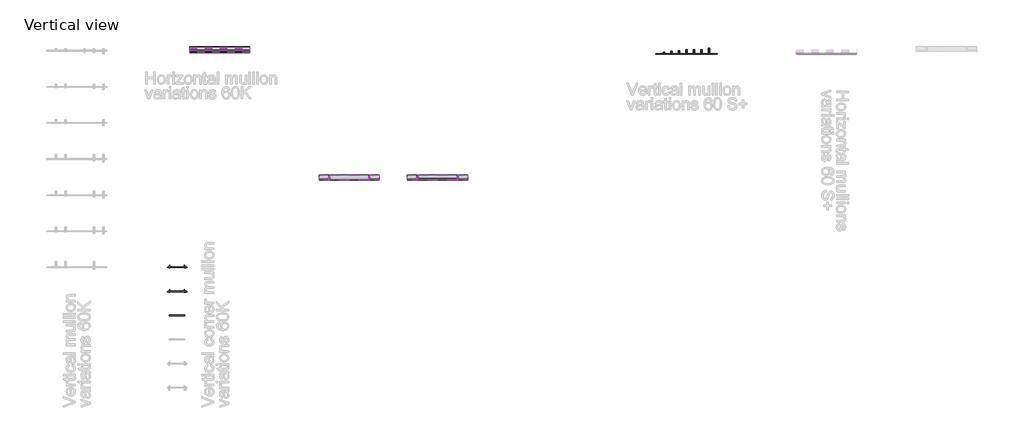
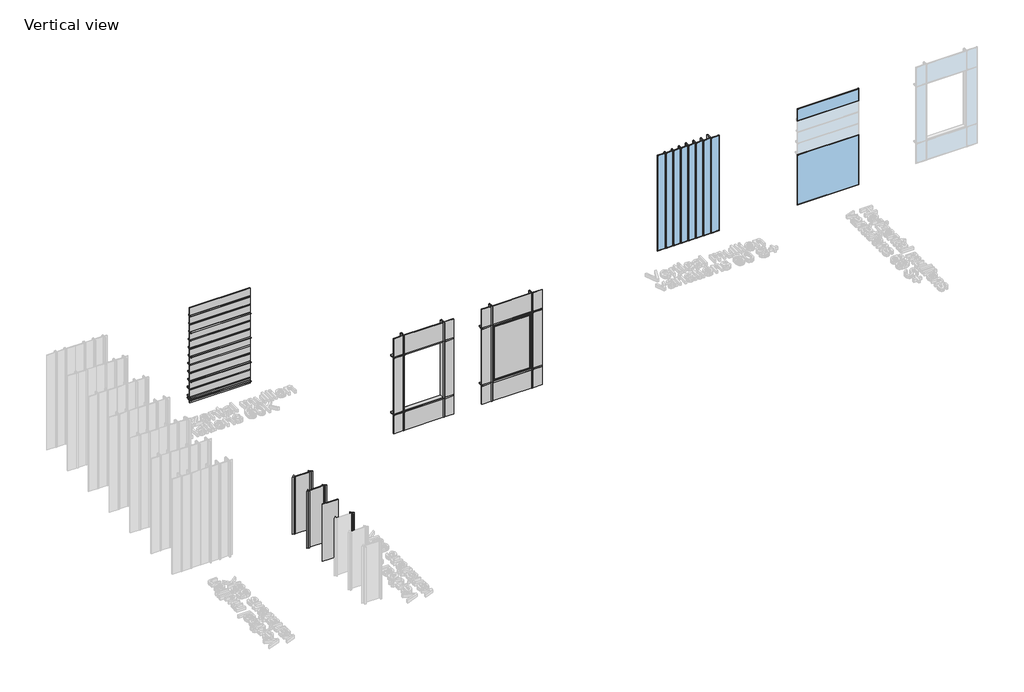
# One storey, part 2 of 8: 48 members, 33 plates, 10 windows.
"""IFC4 building model written with IfcOpenShell, lengths in millimetres."""

from ifc_helpers import new_model, si_unit, origin, place, context, project, spatial, transform, mapped, element, save
from components import rectangular_mullion_91a4d03f, rectangular_mullion_1fb9d1cf, rectangular_mullion_e379f3d9, rectangular_mullion_30acf88c, rectangular_mullion_fmo60_114_fm60_11_d209c6d5, rectangular_mullion_fmo60_114_fm60_80_10442b32, rectangular_mullion_fmo60_118_s_0fe06a43, rectangular_mullion_fmo60_158_s_52347238, rectangular_mullion_fmo60_198_fm60_072_dd037897, rectangular_mullion_fmo60_198_fm60_11_775ce3b2, rectangular_mullion_fmo60_198_fm60_80_f14fbcc1, rectangular_mullion_fmo60_200_s_0897aa4b, rectangular_mullion_fmo60_200_fm60_11_a42c40b5, rectangular_mullion_fmo60_200_fm60_11_e7f553fe, rectangular_mullion_fmo60_200_fm60_17_2a329e26, rectangular_mullion_fmo60_200_fm60_17_df5e8c79, rectangular_mullion_fmo60_202s_df9089a6, rectangular_mullion_fmo60_270_s_035aa8a6, rectangular_mullion_fmo60_88_s_e3798255, rectangular_mullion_fmv60_114_fm60_072_02b97602, rectangular_mullion_fmv60_156_fm60_072_3197a984, rectangular_mullion_fmv60_156_fm60_11_ceda7d93, rectangular_mullion_fmv60_156_fm60_80_34412146, rectangular_mullion_fmv60_198_fm60_11_caea0c3b, rectangular_mullion_fmv60_198_fm60_11_619c33c3, rectangular_mullion_fmv60_198_fm60_11_c9d1c292, rectangular_mullion_fmv60_198_fm60_11_2_b09c84f9, rectangular_mullion_fmv60_198_fm60_11_2_ca5d6e68, rectangular_mullion_fmv60_88_fm60_072_44b3a92c, rectangular_mullion_fmv60_88_fm60_11_a70bedf8, rectangular_mullion_fmv60_88_fm60_80_51c820f4, system_panel_glazed_1e6cb2f1, system_panel_glazed_8a542666, system_panel_glazed_3cf5a666, system_panel_glazed_1a46cd8e, system_panel_glazed_b2c5e9e3, system_panel_glazed_255130bc, system_panel_glazed_8ef16246, system_panel_glazed_57e81d33, system_panel_glazed_b8137b65, system_panel_glazed_9a2b330e, system_panel_glazed_e2c861a8, windows_series_t65_windows_series_t65_0c6ae27d, fixed_panel_02_fixed_panel_rubber_02_f5d591b8, fixed_panel_02_fixed_panel_rubber_02_600722cc, fixed_panel_02_fixed_panel_rubber_02_349c402d, fixed_panel_02_fixed_panel_rubber_02_223eeaf6, fixed_panel_02_fixed_panel_rubber_02_f751245b, fixed_panel_02_fixed_panel_rubber_02_9ab53f43, fixed_panel_02_fixed_panel_rubber_02_17601ea6, fixed_panel_02_fixed_panel_rubber_02_53cac8bb, fixed_panel_02_fixed_panel_rubber_02_3c9d875f

model = new_model("IFC4")

# Units and contexts
model_context = context("Model", 3, world=origin())
ifc_project = project(units=[si_unit("LENGTHUNIT", "METRE", prefix="MILLI")], contexts=[model_context])

# Site, building, storey
site = spatial("IfcSite", under=ifc_project)
building = spatial("IfcBuilding", under=site)
storey = spatial("IfcBuildingStorey", under=building, Name="Vertical view", Elevation=0.0)

# Members
placement = place(None, origin())
rectangular_mullion_shape = rectangular_mullion_91a4d03f(model_context)
element("IfcMember", 1, ObjectType="Rectangular Mullion : FMO60-200S S+", at=placement, inside=storey, context=model_context, shape_type="MappedRepresentation", body=[
    mapped(rectangular_mullion_shape, transform((28878.7472957, -3962.2769055, 0.0), x_axis=(1.0, 0.0, 0.0), y_axis=(0.0, -1.0, 0.0), z_axis=(0.0, 0.0, -1.0))),
])
rectangular_mullion_2_shape = rectangular_mullion_1fb9d1cf(model_context)
element("IfcMember", 2, ObjectType="Rectangular Mullion : FMO053...FM60-11_L", at=placement, inside=storey, context=model_context, shape_type="MappedRepresentation", body=[
    mapped(rectangular_mullion_2_shape, transform((2631.4544688, -14613.2711063, 3000.0), x_axis=(-1.0, 0.0, 0.0), y_axis=(0.0, -1.0, 0.0), z_axis=(0.0, 0.0, 1.0))),
])
element("IfcMember", 3, ObjectType="Rectangular Mullion : FMO053...FM60-11_R", at=placement, inside=storey, context=model_context, shape_type="MappedRepresentation", body=[
    mapped(rectangular_mullion_2_shape, transform((3631.4544688, -14613.2711063, 0.0), x_axis=(1.0, 0.0, 0.0), y_axis=(0.0, -1.0, 0.0), z_axis=(0.0, 0.0, -1.0))),
])
rectangular_mullion_3_shape = rectangular_mullion_e379f3d9(model_context)
element("IfcMember", 4, ObjectType="Rectangular Mullion : FMO053...FM60-17_L", at=placement, inside=storey, context=model_context, shape_type="MappedRepresentation", body=[
    mapped(rectangular_mullion_3_shape, transform((2631.4544688, -15813.2711063, 3000.0), x_axis=(-1.0, 0.0, 0.0), y_axis=(0.0, -1.0, 0.0), z_axis=(0.0, 0.0, 1.0))),
])
element("IfcMember", 5, ObjectType="Rectangular Mullion : FMO053...FM60-17_R", at=placement, inside=storey, context=model_context, shape_type="MappedRepresentation", body=[
    mapped(rectangular_mullion_3_shape, transform((3631.4544688, -15813.2711063, 0.0), x_axis=(1.0, 0.0, 0.0), y_axis=(0.0, -1.0, 0.0), z_axis=(0.0, 0.0, -1.0))),
])
rectangular_mullion_4_shape = rectangular_mullion_30acf88c(model_context)
element("IfcMember", 6, ObjectType="Rectangular Mullion : FMO053...FM60-80_R", at=placement, inside=storey, context=model_context, shape_type="MappedRepresentation", body=[
    mapped(rectangular_mullion_4_shape, transform((3631.4544688, -18208.704744, 0.0), x_axis=(1.0, 0.0, 0.0), y_axis=(0.0, -1.0, 0.0), z_axis=(0.0, 0.0, -1.0))),
])
rectangular_mullion_fmo60_114_fm60_11_shape = rectangular_mullion_fmo60_114_fm60_11_d209c6d5(model_context)
element("IfcMember", 7, ObjectType="Rectangular Mullion : FMO60-114...FM60-11", at=placement, inside=storey, context=model_context, shape_type="MappedRepresentation", body=[
    mapped(rectangular_mullion_fmo60_114_fm60_11_shape, transform((6754.7967463, -3813.2711063, 2855.8002804), x_axis=(0.0, 0.0, 1.0), y_axis=(0.0, -1.0, 0.0), z_axis=(1.0, 0.0, 0.0))),
])
rectangular_mullion_fmo60_114_fm60_80_shape = rectangular_mullion_fmo60_114_fm60_80_10442b32(model_context)
element("IfcMember", 8, ObjectType="Rectangular Mullion : FMO60-114...FM60-80", at=placement, inside=storey, context=model_context, shape_type="MappedRepresentation", body=[
    mapped(rectangular_mullion_fmo60_114_fm60_80_shape, transform((6754.7967463, -3813.2711063, 2426.9603365), x_axis=(0.0, 0.0, 1.0), y_axis=(0.0, -1.0, 0.0), z_axis=(1.0, 0.0, 0.0))),
])
rectangular_mullion_fmo60_118_s_shape = rectangular_mullion_fmo60_118_s_0fe06a43(model_context)
element("IfcMember", 9, ObjectType="Rectangular Mullion : FMO60-118 S+", at=placement, inside=storey, context=model_context, shape_type="MappedRepresentation", body=[
    mapped(rectangular_mullion_fmo60_118_s_shape, transform((27753.7472957, -3962.2769055, 0.0), x_axis=(1.0, 0.0, 0.0), y_axis=(0.0, -1.0, 0.0), z_axis=(0.0, 0.0, -1.0))),
])
rectangular_mullion_fmo60_158_s_shape = rectangular_mullion_fmo60_158_s_52347238(model_context)
element("IfcMember", 10, ObjectType="Rectangular Mullion : FMO60-158 S+", at=placement, inside=storey, context=model_context, shape_type="MappedRepresentation", body=[
    mapped(rectangular_mullion_fmo60_158_s_shape, transform((28128.7472957, -3962.2769055, 0.0), x_axis=(1.0, 0.0, 0.0), y_axis=(0.0, -1.0, 0.0), z_axis=(0.0, 0.0, -1.0))),
])
rectangular_mullion_fmo60_198_fm60_072_shape = rectangular_mullion_fmo60_198_fm60_072_dd037897(model_context)
element("IfcMember", 11, ObjectType="Rectangular Mullion : FMO60-198...FM60-072", at=placement, inside=storey, context=model_context, shape_type="MappedRepresentation", body=[
    mapped(rectangular_mullion_fmo60_198_fm60_072_shape, transform((6754.7967463, -3813.2711063, 282.7606169), x_axis=(0.0, 0.0, 1.0), y_axis=(0.0, -1.0, 0.0), z_axis=(1.0, 0.0, 0.0))),
])
rectangular_mullion_fmo60_198_fm60_11_shape = rectangular_mullion_fmo60_198_fm60_11_775ce3b2(model_context)
element("IfcMember", 12, ObjectType="Rectangular Mullion : FMO60-198...FM60-11", at=placement, inside=storey, context=model_context, shape_type="MappedRepresentation", body=[
    mapped(rectangular_mullion_fmo60_198_fm60_11_shape, transform((6754.7967463, -3813.2711063, 711.6005608), x_axis=(0.0, 0.0, 1.0), y_axis=(0.0, -1.0, 0.0), z_axis=(1.0, 0.0, 0.0))),
])
rectangular_mullion_fmo60_198_fm60_80_shape = rectangular_mullion_fmo60_198_fm60_80_f14fbcc1(model_context)
element("IfcMember", 13, ObjectType="Rectangular Mullion : FMO60-198...FM60-80", at=placement, inside=storey, context=model_context, shape_type="MappedRepresentation", body=[
    mapped(rectangular_mullion_fmo60_198_fm60_80_shape, transform((6754.7967463, -3813.2711063, 141.3803085), x_axis=(0.0, 0.0, 1.0), y_axis=(0.0, -1.0, 0.0), z_axis=(1.0, 0.0, 0.0))),
])
rectangular_mullion_fmo60_200_s_shape = rectangular_mullion_fmo60_200_s_0897aa4b(model_context)
element("IfcMember", 14, ObjectType="Rectangular Mullion : FMO60-200 S+", at=placement, inside=storey, context=model_context, shape_type="MappedRepresentation", body=[
    mapped(rectangular_mullion_fmo60_200_s_shape, transform((28503.7472957, -3962.2769055, 0.0), x_axis=(1.0, 0.0, 0.0), y_axis=(0.0, -1.0, 0.0), z_axis=(0.0, 0.0, -1.0))),
])
rectangular_mullion_fmo60_200_fm60_11_shape = rectangular_mullion_fmo60_200_fm60_11_a42c40b5(model_context)
element("IfcMember", 15, ObjectType="Rectangular Mullion : FMO60-200...FM60-11", at=placement, inside=storey, context=model_context, shape_type="MappedRepresentation", body=[
    mapped(rectangular_mullion_fmo60_200_fm60_11_shape, transform((15106.346732, -10221.1203741, 1000.0), x_axis=(1.0, 0.0, 0.0), y_axis=(0.0, -1.0, 0.0), z_axis=(0.0, 0.0, -1.0))),
])
element("IfcMember", 16, ObjectType="Rectangular Mullion : FMO60-200...FM60-11", at=placement, inside=storey, context=model_context, shape_type="MappedRepresentation", body=[
    mapped(rectangular_mullion_fmo60_200_fm60_11_shape, transform((17106.346732, -10221.1203741, 1000.0), x_axis=(1.0, 0.0, 0.0), y_axis=(0.0, -1.0, 0.0), z_axis=(0.0, 0.0, -1.0))),
])
rectangular_mullion_fmo60_200_fm60_11_2_shape = rectangular_mullion_fmo60_200_fm60_11_e7f553fe(model_context)
element("IfcMember", 17, ObjectType="Rectangular Mullion : FMO60-200...FM60-11", at=placement, inside=storey, context=model_context, shape_type="MappedRepresentation", body=[
    mapped(rectangular_mullion_fmo60_200_fm60_11_2_shape, transform((15106.346732, -10221.1203741, 4000.0), x_axis=(1.0, 0.0, 0.0), y_axis=(0.0, -1.0, 0.0), z_axis=(0.0, 0.0, -1.0))),
])
element("IfcMember", 18, ObjectType="Rectangular Mullion : FMO60-200...FM60-11", at=placement, inside=storey, context=model_context, shape_type="MappedRepresentation", body=[
    mapped(rectangular_mullion_fmo60_200_fm60_11_2_shape, transform((17106.346732, -10221.1203741, 4000.0), x_axis=(1.0, 0.0, 0.0), y_axis=(0.0, -1.0, 0.0), z_axis=(0.0, 0.0, -1.0))),
])
element("IfcMember", 19, ObjectType="Rectangular Mullion : FMO60-200...FM60-11", at=placement, inside=storey, context=model_context, shape_type="MappedRepresentation", body=[
    mapped(rectangular_mullion_fmo60_200_fm60_11_2_shape, transform((15106.346732, -10221.1203741, 0.0), x_axis=(1.0, 0.0, 0.0), y_axis=(0.0, -1.0, 0.0), z_axis=(0.0, 0.0, -1.0))),
])
element("IfcMember", 20, ObjectType="Rectangular Mullion : FMO60-200...FM60-11", at=placement, inside=storey, context=model_context, shape_type="MappedRepresentation", body=[
    mapped(rectangular_mullion_fmo60_200_fm60_11_2_shape, transform((17106.346732, -10221.1203741, 0.0), x_axis=(1.0, 0.0, 0.0), y_axis=(0.0, -1.0, 0.0), z_axis=(0.0, 0.0, -1.0))),
])
rectangular_mullion_fmo60_200_fm60_17_shape = rectangular_mullion_fmo60_200_fm60_17_2a329e26(model_context)
element("IfcMember", 21, ObjectType="Rectangular Mullion : FMO60-200...FM60-17", at=placement, inside=storey, context=model_context, shape_type="MappedRepresentation", body=[
    mapped(rectangular_mullion_fmo60_200_fm60_17_shape, transform((10706.346732, -10221.1203741, 1000.0), x_axis=(1.0, 0.0, 0.0), y_axis=(0.0, -1.0, 0.0), z_axis=(0.0, 0.0, -1.0))),
])
element("IfcMember", 22, ObjectType="Rectangular Mullion : FMO60-200...FM60-17", at=placement, inside=storey, context=model_context, shape_type="MappedRepresentation", body=[
    mapped(rectangular_mullion_fmo60_200_fm60_17_shape, transform((12706.346732, -10221.1203741, 1000.0), x_axis=(1.0, 0.0, 0.0), y_axis=(0.0, -1.0, 0.0), z_axis=(0.0, 0.0, -1.0))),
])
rectangular_mullion_fmo60_200_fm60_17_2_shape = rectangular_mullion_fmo60_200_fm60_17_df5e8c79(model_context)
element("IfcMember", 23, ObjectType="Rectangular Mullion : FMO60-200...FM60-17", at=placement, inside=storey, context=model_context, shape_type="MappedRepresentation", body=[
    mapped(rectangular_mullion_fmo60_200_fm60_17_2_shape, transform((10706.346732, -10221.1203741, 4000.0), x_axis=(1.0, 0.0, 0.0), y_axis=(0.0, -1.0, 0.0), z_axis=(0.0, 0.0, -1.0))),
])
element("IfcMember", 24, ObjectType="Rectangular Mullion : FMO60-200...FM60-17", at=placement, inside=storey, context=model_context, shape_type="MappedRepresentation", body=[
    mapped(rectangular_mullion_fmo60_200_fm60_17_2_shape, transform((12706.346732, -10221.1203741, 4000.0), x_axis=(1.0, 0.0, 0.0), y_axis=(0.0, -1.0, 0.0), z_axis=(0.0, 0.0, -1.0))),
])
element("IfcMember", 25, ObjectType="Rectangular Mullion : FMO60-200...FM60-17", at=placement, inside=storey, context=model_context, shape_type="MappedRepresentation", body=[
    mapped(rectangular_mullion_fmo60_200_fm60_17_2_shape, transform((10706.346732, -10221.1203741, 0.0), x_axis=(1.0, 0.0, 0.0), y_axis=(0.0, -1.0, 0.0), z_axis=(0.0, 0.0, -1.0))),
])
element("IfcMember", 26, ObjectType="Rectangular Mullion : FMO60-200...FM60-17", at=placement, inside=storey, context=model_context, shape_type="MappedRepresentation", body=[
    mapped(rectangular_mullion_fmo60_200_fm60_17_2_shape, transform((12706.346732, -10221.1203741, 0.0), x_axis=(1.0, 0.0, 0.0), y_axis=(0.0, -1.0, 0.0), z_axis=(0.0, 0.0, -1.0))),
])
rectangular_mullion_fmo60_202s_shape = rectangular_mullion_fmo60_202s_df9089a6(model_context)
element("IfcMember", 27, ObjectType="Rectangular Mullion : FMO60-202S+", at=placement, inside=storey, context=model_context, shape_type="MappedRepresentation", body=[
    mapped(rectangular_mullion_fmo60_202s_shape, transform((29253.7472957, -3962.2769055, 0.0), x_axis=(1.0, 0.0, 0.0), y_axis=(0.0, -1.0, 0.0), z_axis=(0.0, 0.0, -1.0))),
])
rectangular_mullion_fmo60_270_s_shape = rectangular_mullion_fmo60_270_s_035aa8a6(model_context)
element("IfcMember", 28, ObjectType="Rectangular Mullion : FMO60-270 S+", at=placement, inside=storey, context=model_context, shape_type="MappedRepresentation", body=[
    mapped(rectangular_mullion_fmo60_270_s_shape, transform((29628.7472957, -3962.2769055, 0.0), x_axis=(1.0, 0.0, 0.0), y_axis=(0.0, -1.0, 0.0), z_axis=(0.0, 0.0, -1.0))),
])
rectangular_mullion_fmo60_88_s_shape = rectangular_mullion_fmo60_88_s_e3798255(model_context)
element("IfcMember", 29, ObjectType="Rectangular Mullion : FMO60-88 S+", at=placement, inside=storey, context=model_context, shape_type="MappedRepresentation", body=[
    mapped(rectangular_mullion_fmo60_88_s_shape, transform((27378.7472957, -3962.2769055, 0.0), x_axis=(1.0, 0.0, 0.0), y_axis=(0.0, -1.0, 0.0), z_axis=(0.0, 0.0, -1.0))),
])
rectangular_mullion_fmv60_114_fm60_072_shape = rectangular_mullion_fmv60_114_fm60_072_02b97602(model_context)
element("IfcMember", 30, ObjectType="Rectangular Mullion : FMV60-114...FM60-072", at=placement, inside=storey, context=model_context, shape_type="MappedRepresentation", body=[
    mapped(rectangular_mullion_fmv60_114_fm60_072_shape, transform((6754.7967463, -3813.2711063, 3284.6402243), x_axis=(0.0, 0.0, 1.0), y_axis=(0.0, -1.0, 0.0), z_axis=(1.0, 0.0, 0.0))),
])
rectangular_mullion_fmv60_156_fm60_072_shape = rectangular_mullion_fmv60_156_fm60_072_3197a984(model_context)
element("IfcMember", 31, ObjectType="Rectangular Mullion : FMV60-156...FM60-072", at=placement, inside=storey, context=model_context, shape_type="MappedRepresentation", body=[
    mapped(rectangular_mullion_fmv60_156_fm60_072_shape, transform((6754.7967463, -3813.2711063, 1569.2804487), x_axis=(0.0, 0.0, 1.0), y_axis=(0.0, -1.0, 0.0), z_axis=(1.0, 0.0, 0.0))),
])
rectangular_mullion_fmv60_156_fm60_11_shape = rectangular_mullion_fmv60_156_fm60_11_ceda7d93(model_context)
element("IfcMember", 32, ObjectType="Rectangular Mullion : FMV60-156...FM60-11", at=placement, inside=storey, context=model_context, shape_type="MappedRepresentation", body=[
    mapped(rectangular_mullion_fmv60_156_fm60_11_shape, transform((6754.7967463, -3813.2711063, 1998.1203926), x_axis=(0.0, 0.0, 1.0), y_axis=(0.0, -1.0, 0.0), z_axis=(1.0, 0.0, 0.0))),
])
rectangular_mullion_fmv60_156_fm60_80_shape = rectangular_mullion_fmv60_156_fm60_80_34412146(model_context)
element("IfcMember", 33, ObjectType="Rectangular Mullion : FMV60-156...FM60-80", at=placement, inside=storey, context=model_context, shape_type="MappedRepresentation", body=[
    mapped(rectangular_mullion_fmv60_156_fm60_80_shape, transform((6754.7967463, -3813.2711063, 1140.4405048), x_axis=(0.0, 0.0, 1.0), y_axis=(0.0, -1.0, 0.0), z_axis=(1.0, 0.0, 0.0))),
])
rectangular_mullion_fmv60_198_fm60_11_shape = rectangular_mullion_fmv60_198_fm60_11_caea0c3b(model_context)
element("IfcMember", 34, ObjectType="Rectangular Mullion : FMV60-198...FM60-11", at=placement, inside=storey, context=model_context, shape_type="MappedRepresentation", body=[
    mapped(rectangular_mullion_fmv60_198_fm60_11_shape, transform((15076.346732, -10221.1203741, 4000.0), x_axis=(0.0, 0.0, 1.0), y_axis=(0.0, -1.0, 0.0), z_axis=(1.0, 0.0, 0.0))),
])
element("IfcMember", 35, ObjectType="Rectangular Mullion : FMV60-198...FM60-11", at=placement, inside=storey, context=model_context, shape_type="MappedRepresentation", body=[
    mapped(rectangular_mullion_fmv60_198_fm60_11_shape, transform((15076.346732, -10221.1203741, 1000.0), x_axis=(0.0, 0.0, 1.0), y_axis=(0.0, -1.0, 0.0), z_axis=(1.0, 0.0, 0.0))),
])
rectangular_mullion_fmv60_198_fm60_11_2_shape = rectangular_mullion_fmv60_198_fm60_11_619c33c3(model_context)
element("IfcMember", 36, ObjectType="Rectangular Mullion : FMV60-198...FM60-11", at=placement, inside=storey, context=model_context, shape_type="MappedRepresentation", body=[
    mapped(rectangular_mullion_fmv60_198_fm60_11_2_shape, transform((17606.346732, -10221.1203741, 4000.0), x_axis=(0.0, 0.0, 1.0), y_axis=(0.0, -1.0, 0.0), z_axis=(1.0, 0.0, 0.0))),
])
element("IfcMember", 37, ObjectType="Rectangular Mullion : FMV60-198...FM60-11", at=placement, inside=storey, context=model_context, shape_type="MappedRepresentation", body=[
    mapped(rectangular_mullion_fmv60_198_fm60_11_2_shape, transform((17606.346732, -10221.1203741, 1000.0), x_axis=(0.0, 0.0, 1.0), y_axis=(0.0, -1.0, 0.0), z_axis=(1.0, 0.0, 0.0))),
])
rectangular_mullion_fmv60_198_fm60_11_3_shape = rectangular_mullion_fmv60_198_fm60_11_c9d1c292(model_context)
element("IfcMember", 38, ObjectType="Rectangular Mullion : FMV60-198...FM60-11", at=placement, inside=storey, context=model_context, shape_type="MappedRepresentation", body=[
    mapped(rectangular_mullion_fmv60_198_fm60_11_3_shape, transform((17076.346732, -10221.1203741, 4000.0), x_axis=(0.0, 0.0, 1.0), y_axis=(0.0, -1.0, 0.0), z_axis=(1.0, 0.0, 0.0))),
])
element("IfcMember", 39, ObjectType="Rectangular Mullion : FMV60-198...FM60-11", at=placement, inside=storey, context=model_context, shape_type="MappedRepresentation", body=[
    mapped(rectangular_mullion_fmv60_198_fm60_11_3_shape, transform((17076.346732, -10221.1203741, 1000.0), x_axis=(0.0, 0.0, 1.0), y_axis=(0.0, -1.0, 0.0), z_axis=(1.0, 0.0, 0.0))),
])
rectangular_mullion_fmv60_198_fm60_11_2_2_shape = rectangular_mullion_fmv60_198_fm60_11_2_b09c84f9(model_context)
element("IfcMember", 40, ObjectType="Rectangular Mullion : FMV60-198...FM60-11 2", at=placement, inside=storey, context=model_context, shape_type="MappedRepresentation", body=[
    mapped(rectangular_mullion_fmv60_198_fm60_11_2_2_shape, transform((13206.346732, -10221.1203741, 4000.0), x_axis=(0.0, 0.0, 1.0), y_axis=(0.0, -1.0, 0.0), z_axis=(1.0, 0.0, 0.0))),
])
element("IfcMember", 41, ObjectType="Rectangular Mullion : FMV60-198...FM60-11 2", at=placement, inside=storey, context=model_context, shape_type="MappedRepresentation", body=[
    mapped(rectangular_mullion_fmv60_198_fm60_11_2_2_shape, transform((13206.346732, -10221.1203741, 1000.0), x_axis=(0.0, 0.0, 1.0), y_axis=(0.0, -1.0, 0.0), z_axis=(1.0, 0.0, 0.0))),
])
rectangular_mullion_fmv60_198_fm60_11_2_3_shape = rectangular_mullion_fmv60_198_fm60_11_2_ca5d6e68(model_context)
element("IfcMember", 42, ObjectType="Rectangular Mullion : FMV60-198...FM60-11 2", at=placement, inside=storey, context=model_context, shape_type="MappedRepresentation", body=[
    mapped(rectangular_mullion_fmv60_198_fm60_11_2_3_shape, transform((12676.346732, -10221.1203741, 4000.0), x_axis=(0.0, 0.0, 1.0), y_axis=(0.0, -1.0, 0.0), z_axis=(1.0, 0.0, 0.0))),
])
element("IfcMember", 43, ObjectType="Rectangular Mullion : FMV60-198...FM60-11 2", at=placement, inside=storey, context=model_context, shape_type="MappedRepresentation", body=[
    mapped(rectangular_mullion_fmv60_198_fm60_11_2_3_shape, transform((12676.346732, -10221.1203741, 1000.0), x_axis=(0.0, 0.0, 1.0), y_axis=(0.0, -1.0, 0.0), z_axis=(1.0, 0.0, 0.0))),
])
element("IfcMember", 44, ObjectType="Rectangular Mullion : FMV60-198...FM60-11 2", at=placement, inside=storey, context=model_context, shape_type="MappedRepresentation", body=[
    mapped(rectangular_mullion_fmv60_198_fm60_11_2_2_shape, transform((10676.346732, -10221.1203741, 4000.0), x_axis=(0.0, 0.0, 1.0), y_axis=(0.0, -1.0, 0.0), z_axis=(1.0, 0.0, 0.0))),
])
element("IfcMember", 45, ObjectType="Rectangular Mullion : FMV60-198...FM60-11 2", at=placement, inside=storey, context=model_context, shape_type="MappedRepresentation", body=[
    mapped(rectangular_mullion_fmv60_198_fm60_11_2_2_shape, transform((10676.346732, -10221.1203741, 1000.0), x_axis=(0.0, 0.0, 1.0), y_axis=(0.0, -1.0, 0.0), z_axis=(1.0, 0.0, 0.0))),
])
rectangular_mullion_fmv60_88_fm60_072_shape = rectangular_mullion_fmv60_88_fm60_072_44b3a92c(model_context)
element("IfcMember", 46, ObjectType="Rectangular Mullion : FMV60-88...FM60-072", at=placement, inside=storey, context=model_context, shape_type="MappedRepresentation", body=[
    mapped(rectangular_mullion_fmv60_88_fm60_072_shape, transform((6754.7967463, -3813.2711063, 4142.3201122), x_axis=(0.0, 0.0, 1.0), y_axis=(0.0, -1.0, 0.0), z_axis=(1.0, 0.0, 0.0))),
])
rectangular_mullion_fmv60_88_fm60_11_shape = rectangular_mullion_fmv60_88_fm60_11_a70bedf8(model_context)
element("IfcMember", 47, ObjectType="Rectangular Mullion : FMV60-88...FM60-11", at=placement, inside=storey, context=model_context, shape_type="MappedRepresentation", body=[
    mapped(rectangular_mullion_fmv60_88_fm60_11_shape, transform((6754.7967463, -3813.2711063, 4571.1600561), x_axis=(0.0, 0.0, 1.0), y_axis=(0.0, -1.0, 0.0), z_axis=(1.0, 0.0, 0.0))),
])
rectangular_mullion_fmv60_88_fm60_80_shape = rectangular_mullion_fmv60_88_fm60_80_51c820f4(model_context)
element("IfcMember", 48, ObjectType="Rectangular Mullion : FMV60-88...FM60-80", at=placement, inside=storey, context=model_context, shape_type="MappedRepresentation", body=[
    mapped(rectangular_mullion_fmv60_88_fm60_80_shape, transform((6754.7967463, -3813.2711063, 3713.4801683), x_axis=(0.0, 0.0, 1.0), y_axis=(0.0, -1.0, 0.0), z_axis=(1.0, 0.0, 0.0))),
])

# Plates
system_panel_glazed_shape = system_panel_glazed_1e6cb2f1(model_context)
element("IfcPlate", 49, ObjectType="System Panel : Glazed", at=placement, inside=storey, context=model_context, shape_type="MappedRepresentation", body=[
    mapped(system_panel_glazed_shape, transform((5254.7967463, -3813.2711063, 4576.1605464), x_axis=(1.0, 0.0, 0.0), y_axis=(0.0, 1.0, 0.0), z_axis=(0.0, 0.0, 1.0))),
])
system_panel_glazed_2_shape = system_panel_glazed_8a542666(model_context)
element("IfcPlate", 50, ObjectType="System Panel : Glazed", at=placement, inside=storey, context=model_context, shape_type="MappedRepresentation", body=[
    mapped(system_panel_glazed_2_shape, transform((5254.7967463, -3813.2711063, 4147.3206025), x_axis=(1.0, 0.0, 0.0), y_axis=(0.0, 1.0, 0.0), z_axis=(0.0, 0.0, 1.0))),
])
element("IfcPlate", 51, ObjectType="System Panel : Glazed", at=placement, inside=storey, context=model_context, shape_type="MappedRepresentation", body=[
    mapped(system_panel_glazed_2_shape, transform((5254.7967463, -3813.2711063, 3718.4806586), x_axis=(1.0, 0.0, 0.0), y_axis=(0.0, 1.0, 0.0), z_axis=(0.0, 0.0, 1.0))),
])
element("IfcPlate", 52, ObjectType="System Panel : Glazed", at=placement, inside=storey, context=model_context, shape_type="MappedRepresentation", body=[
    mapped(system_panel_glazed_2_shape, transform((5254.7967463, -3813.2711063, 2860.8007707), x_axis=(1.0, 0.0, 0.0), y_axis=(0.0, 1.0, 0.0), z_axis=(0.0, 0.0, 1.0))),
])
element("IfcPlate", 53, ObjectType="System Panel : Glazed", at=placement, inside=storey, context=model_context, shape_type="MappedRepresentation", body=[
    mapped(system_panel_glazed_2_shape, transform((5254.7967463, -3813.2711063, 2431.9608268), x_axis=(1.0, 0.0, 0.0), y_axis=(0.0, 1.0, 0.0), z_axis=(0.0, 0.0, 1.0))),
])
element("IfcPlate", 54, ObjectType="System Panel : Glazed", at=placement, inside=storey, context=model_context, shape_type="MappedRepresentation", body=[
    mapped(system_panel_glazed_2_shape, transform((5254.7967463, -3813.2711063, 2003.1208829), x_axis=(1.0, 0.0, 0.0), y_axis=(0.0, 1.0, 0.0), z_axis=(0.0, 0.0, 1.0))),
])
element("IfcPlate", 55, ObjectType="System Panel : Glazed", at=placement, inside=storey, context=model_context, shape_type="MappedRepresentation", body=[
    mapped(system_panel_glazed_2_shape, transform((5254.7967463, -3813.2711063, 1574.280939), x_axis=(1.0, 0.0, 0.0), y_axis=(0.0, 1.0, 0.0), z_axis=(0.0, 0.0, 1.0))),
])
element("IfcPlate", 56, ObjectType="System Panel : Glazed", at=placement, inside=storey, context=model_context, shape_type="MappedRepresentation", body=[
    mapped(system_panel_glazed_2_shape, transform((5254.7967463, -3813.2711063, 1145.4409951), x_axis=(1.0, 0.0, 0.0), y_axis=(0.0, 1.0, 0.0), z_axis=(0.0, 0.0, 1.0))),
])
element("IfcPlate", 57, ObjectType="System Panel : Glazed", at=placement, inside=storey, context=model_context, shape_type="MappedRepresentation", body=[
    mapped(system_panel_glazed_2_shape, transform((5254.7967463, -3813.2711063, 287.7611072), x_axis=(1.0, 0.0, 0.0), y_axis=(0.0, 1.0, 0.0), z_axis=(0.0, 0.0, 1.0))),
])
system_panel_glazed_3_shape = system_panel_glazed_3cf5a666(model_context)
element("IfcPlate", 58, ObjectType="System Panel : Glazed", at=placement, inside=storey, context=model_context, shape_type="MappedRepresentation", body=[
    mapped(system_panel_glazed_3_shape, transform((5254.7967463, -3813.2711063, 3289.6402243), x_axis=(1.0, 0.0, 0.0), y_axis=(0.0, 1.0, 0.0), z_axis=(0.0, 0.0, 1.0))),
])
element("IfcPlate", 59, ObjectType="System Panel : Glazed", at=placement, inside=storey, context=model_context, shape_type="MappedRepresentation", body=[
    mapped(system_panel_glazed_3_shape, transform((5254.7967463, -3813.2711063, 716.6005608), x_axis=(1.0, 0.0, 0.0), y_axis=(0.0, 1.0, 0.0), z_axis=(0.0, 0.0, 1.0))),
])
system_panel_glazed_4_shape = system_panel_glazed_1a46cd8e(model_context)
element("IfcPlate", 60, ObjectType="System Panel : Glazed", at=placement, inside=storey, context=model_context, shape_type="MappedRepresentation", body=[
    mapped(system_panel_glazed_4_shape, transform((5254.7967463, -3813.2711063, 0.0), x_axis=(1.0, 0.0, 0.0), y_axis=(0.0, 1.0, 0.0), z_axis=(0.0, 0.0, 1.0))),
])
system_panel_glazed_5_shape = system_panel_glazed_b2c5e9e3(model_context)
element("IfcPlate", 61, ObjectType="System Panel : Glazed", at=placement, inside=storey, context=model_context, shape_type="MappedRepresentation", body=[
    mapped(system_panel_glazed_5_shape, transform((5254.7967463, -3813.2711063, 146.3807988), x_axis=(1.0, 0.0, 0.0), y_axis=(0.0, 1.0, 0.0), z_axis=(0.0, 0.0, 1.0))),
])
system_panel_glazed_6_shape = system_panel_glazed_255130bc(model_context)
element("IfcPlate", 62, ObjectType="System Panel : Glazed", at=placement, inside=storey, context=model_context, shape_type="MappedRepresentation", body=[
    mapped(system_panel_glazed_6_shape, transform((10453.846732, -10221.1203741, 0.0), x_axis=(1.0, 0.0, 0.0), y_axis=(0.0, 1.0, 0.0), z_axis=(0.0, 0.0, 1.0))),
])
element("IfcPlate", 63, ObjectType="System Panel : Glazed", at=placement, inside=storey, context=model_context, shape_type="MappedRepresentation", body=[
    mapped(system_panel_glazed_6_shape, transform((12958.846732, -10221.1203741, 0.0), x_axis=(1.0, 0.0, 0.0), y_axis=(0.0, 1.0, 0.0), z_axis=(0.0, 0.0, 1.0))),
])
element("IfcPlate", 64, ObjectType="System Panel : Glazed", at=placement, inside=storey, context=model_context, shape_type="MappedRepresentation", body=[
    mapped(system_panel_glazed_6_shape, transform((14853.846732, -10221.1203741, 0.0), x_axis=(1.0, 0.0, 0.0), y_axis=(0.0, 1.0, 0.0), z_axis=(0.0, 0.0, 1.0))),
])
element("IfcPlate", 65, ObjectType="System Panel : Glazed", at=placement, inside=storey, context=model_context, shape_type="MappedRepresentation", body=[
    mapped(system_panel_glazed_6_shape, transform((17358.846732, -10221.1203741, 0.0), x_axis=(1.0, 0.0, 0.0), y_axis=(0.0, 1.0, 0.0), z_axis=(0.0, 0.0, 1.0))),
])
system_panel_glazed_7_shape = system_panel_glazed_8ef16246(model_context)
element("IfcPlate", 66, ObjectType="System Panel : Glazed", at=placement, inside=storey, context=model_context, shape_type="MappedRepresentation", body=[
    mapped(system_panel_glazed_7_shape, transform((11706.346732, -10221.1203741, 0.0), x_axis=(1.0, 0.0, 0.0), y_axis=(0.0, 1.0, 0.0), z_axis=(0.0, 0.0, 1.0))),
])
element("IfcPlate", 67, ObjectType="System Panel : Glazed", at=placement, inside=storey, context=model_context, shape_type="MappedRepresentation", body=[
    mapped(system_panel_glazed_7_shape, transform((16106.346732, -10221.1203741, 0.0), x_axis=(1.0, 0.0, 0.0), y_axis=(0.0, 1.0, 0.0), z_axis=(0.0, 0.0, 1.0))),
])
system_panel_glazed_8_shape = system_panel_glazed_57e81d33(model_context)
element("IfcPlate", 68, ObjectType="System Panel : Glazed", at=placement, inside=storey, context=model_context, shape_type="MappedRepresentation", body=[
    mapped(system_panel_glazed_8_shape, transform((10453.846732, -10221.1203741, 4005.0), x_axis=(1.0, 0.0, 0.0), y_axis=(0.0, 1.0, 0.0), z_axis=(0.0, 0.0, 1.0))),
])
element("IfcPlate", 69, ObjectType="System Panel : Glazed", at=placement, inside=storey, context=model_context, shape_type="MappedRepresentation", body=[
    mapped(system_panel_glazed_8_shape, transform((12958.846732, -10221.1203741, 4005.0), x_axis=(1.0, 0.0, 0.0), y_axis=(0.0, 1.0, 0.0), z_axis=(0.0, 0.0, 1.0))),
])
element("IfcPlate", 70, ObjectType="System Panel : Glazed", at=placement, inside=storey, context=model_context, shape_type="MappedRepresentation", body=[
    mapped(system_panel_glazed_8_shape, transform((14853.846732, -10221.1203741, 4005.0), x_axis=(1.0, 0.0, 0.0), y_axis=(0.0, 1.0, 0.0), z_axis=(0.0, 0.0, 1.0))),
])
element("IfcPlate", 71, ObjectType="System Panel : Glazed", at=placement, inside=storey, context=model_context, shape_type="MappedRepresentation", body=[
    mapped(system_panel_glazed_8_shape, transform((17358.846732, -10221.1203741, 4005.0), x_axis=(1.0, 0.0, 0.0), y_axis=(0.0, 1.0, 0.0), z_axis=(0.0, 0.0, 1.0))),
])
system_panel_glazed_9_shape = system_panel_glazed_b8137b65(model_context)
element("IfcPlate", 72, ObjectType="System Panel : Glazed", at=placement, inside=storey, context=model_context, shape_type="MappedRepresentation", body=[
    mapped(system_panel_glazed_9_shape, transform((11706.346732, -10221.1203741, 4005.0), x_axis=(1.0, 0.0, 0.0), y_axis=(0.0, 1.0, 0.0), z_axis=(0.0, 0.0, 1.0))),
])
element("IfcPlate", 73, ObjectType="System Panel : Glazed", at=placement, inside=storey, context=model_context, shape_type="MappedRepresentation", body=[
    mapped(system_panel_glazed_9_shape, transform((16106.346732, -10221.1203741, 4005.0), x_axis=(1.0, 0.0, 0.0), y_axis=(0.0, 1.0, 0.0), z_axis=(0.0, 0.0, 1.0))),
])
system_panel_glazed_10_shape = system_panel_glazed_9a2b330e(model_context)
element("IfcPlate", 74, ObjectType="System Panel : Glazed", at=placement, inside=storey, context=model_context, shape_type="MappedRepresentation", body=[
    mapped(system_panel_glazed_10_shape, transform((10453.846732, -10221.1203741, 1005.0), x_axis=(1.0, 0.0, 0.0), y_axis=(0.0, 1.0, 0.0), z_axis=(0.0, 0.0, 1.0))),
])
element("IfcPlate", 75, ObjectType="System Panel : Glazed", at=placement, inside=storey, context=model_context, shape_type="MappedRepresentation", body=[
    mapped(system_panel_glazed_10_shape, transform((12958.846732, -10221.1203741, 1005.0), x_axis=(1.0, 0.0, 0.0), y_axis=(0.0, 1.0, 0.0), z_axis=(0.0, 0.0, 1.0))),
])
element("IfcPlate", 76, ObjectType="System Panel : Glazed", at=placement, inside=storey, context=model_context, shape_type="MappedRepresentation", body=[
    mapped(system_panel_glazed_10_shape, transform((14853.846732, -10221.1203741, 1005.0), x_axis=(1.0, 0.0, 0.0), y_axis=(0.0, 1.0, 0.0), z_axis=(0.0, 0.0, 1.0))),
])
element("IfcPlate", 77, ObjectType="System Panel : Glazed", at=placement, inside=storey, context=model_context, shape_type="MappedRepresentation", body=[
    mapped(system_panel_glazed_10_shape, transform((17358.846732, -10221.1203741, 1005.0), x_axis=(1.0, 0.0, 0.0), y_axis=(0.0, 1.0, 0.0), z_axis=(0.0, 0.0, 1.0))),
])
system_panel_glazed_11_shape = system_panel_glazed_e2c861a8(model_context)
element("IfcPlate", 78, ObjectType="System Panel : Glazed", at=placement, inside=storey, context=model_context, shape_type="MappedRepresentation", body=[
    mapped(system_panel_glazed_11_shape, transform((3131.390072, -14613.2711063, 0.0), x_axis=(1.0, 0.0, 0.0), y_axis=(0.0, 1.0, 0.0), z_axis=(0.0, 0.0, 1.0))),
])
element("IfcPlate", 79, ObjectType="System Panel : Glazed", at=placement, inside=storey, context=model_context, shape_type="MappedRepresentation", body=[
    mapped(system_panel_glazed_11_shape, transform((3131.390072, -15813.2711063, 0.0), x_axis=(1.0, 0.0, 0.0), y_axis=(0.0, 1.0, 0.0), z_axis=(0.0, 0.0, 1.0))),
])
element("IfcPlate", 80, ObjectType="System Panel : Glazed", at=placement, inside=storey, context=model_context, shape_type="MappedRepresentation", body=[
    mapped(system_panel_glazed_11_shape, transform((3131.390072, -17008.704744, 0.0), x_axis=(1.0, 0.0, 0.0), y_axis=(0.0, 1.0, 0.0), z_axis=(0.0, 0.0, 1.0))),
])
windows_series_t65_windows_series_t65_shape = windows_series_t65_windows_series_t65_0c6ae27d(model_context)
element("IfcPlate", 81, ObjectType="Windows series T65 : Windows series T65", at=placement, inside=storey, context=model_context, shape_type="MappedRepresentation", body=[
    mapped(windows_series_t65_windows_series_t65_shape, transform((16106.346732, -10221.1203741, 1005.0), x_axis=(1.0, 0.0, 0.0), y_axis=(0.0, 1.0, 0.0), z_axis=(0.0, 0.0, 1.0))),
])

# Windows
fixed_panel_02_fixed_panel_rubber_02_shape = fixed_panel_02_fixed_panel_rubber_02_f5d591b8(model_context)
element("IfcWindow", 82, ObjectType="fixed_panel - 02 : fixed_panel_rubber - 02", at=placement, inside=storey, context=model_context, shape_type="MappedRepresentation", body=[
    mapped(fixed_panel_02_fixed_panel_rubber_02_shape, transform((35464.7967463, -3962.2769055, 4429.9842301), x_axis=(1.0, 0.0, 0.0), y_axis=(0.0, 1.0, 0.0), z_axis=(0.0, 0.0, 1.0))),
])
fixed_panel_02_fixed_panel_rubber_02_2_shape = fixed_panel_02_fixed_panel_rubber_02_600722cc(model_context)
element("IfcWindow", 83, ObjectType="fixed_panel - 02 : fixed_panel_rubber - 02", at=placement, inside=storey, context=model_context, shape_type="MappedRepresentation", body=[
    mapped(fixed_panel_02_fixed_panel_rubber_02_2_shape, transform((35464.7967463, -3962.2769055, 0.0), x_axis=(1.0, 0.0, 0.0), y_axis=(0.0, 1.0, 0.0), z_axis=(0.0, 0.0, 1.0))),
])
fixed_panel_02_fixed_panel_rubber_02_3_shape = fixed_panel_02_fixed_panel_rubber_02_349c402d(model_context)
element("IfcWindow", 84, ObjectType="fixed_panel - 02 : fixed_panel_rubber - 02", at=placement, inside=storey, context=model_context, shape_type="MappedRepresentation", body=[
    mapped(fixed_panel_02_fixed_panel_rubber_02_3_shape, transform((27176.2491653, -3962.2769055, 0.0), x_axis=(1.0, 0.0, 0.0), y_axis=(0.0, 1.0, 0.0), z_axis=(0.0, 0.0, 1.0))),
])
fixed_panel_02_fixed_panel_rubber_02_4_shape = fixed_panel_02_fixed_panel_rubber_02_223eeaf6(model_context)
element("IfcWindow", 85, ObjectType="fixed_panel - 02 : fixed_panel_rubber - 02", at=placement, inside=storey, context=model_context, shape_type="MappedRepresentation", body=[
    mapped(fixed_panel_02_fixed_panel_rubber_02_4_shape, transform((27566.2482305, -3962.2769055, 0.0), x_axis=(1.0, 0.0, 0.0), y_axis=(0.0, 1.0, 0.0), z_axis=(0.0, 0.0, 1.0))),
])
fixed_panel_02_fixed_panel_rubber_02_5_shape = fixed_panel_02_fixed_panel_rubber_02_f751245b(model_context)
element("IfcWindow", 86, ObjectType="fixed_panel - 02 : fixed_panel_rubber - 02", at=placement, inside=storey, context=model_context, shape_type="MappedRepresentation", body=[
    mapped(fixed_panel_02_fixed_panel_rubber_02_5_shape, transform((27941.251673, -3962.2769055, 0.0), x_axis=(1.0, 0.0, 0.0), y_axis=(0.0, 1.0, 0.0), z_axis=(0.0, 0.0, 1.0))),
])
fixed_panel_02_fixed_panel_rubber_02_6_shape = fixed_panel_02_fixed_panel_rubber_02_9ab53f43(model_context)
element("IfcWindow", 87, ObjectType="fixed_panel - 02 : fixed_panel_rubber - 02", at=placement, inside=storey, context=model_context, shape_type="MappedRepresentation", body=[
    mapped(fixed_panel_02_fixed_panel_rubber_02_6_shape, transform((28316.2498707, -3962.2769055, 0.0), x_axis=(1.0, 0.0, 0.0), y_axis=(0.0, 1.0, 0.0), z_axis=(0.0, 0.0, 1.0))),
])
fixed_panel_02_fixed_panel_rubber_02_7_shape = fixed_panel_02_fixed_panel_rubber_02_17601ea6(model_context)
element("IfcWindow", 88, ObjectType="fixed_panel - 02 : fixed_panel_rubber - 02", at=placement, inside=storey, context=model_context, shape_type="MappedRepresentation", body=[
    mapped(fixed_panel_02_fixed_panel_rubber_02_7_shape, transform((28691.2464976, -3962.2769055, 0.0), x_axis=(1.0, 0.0, 0.0), y_axis=(0.0, 1.0, 0.0), z_axis=(0.0, 0.0, 1.0))),
])
fixed_panel_02_fixed_panel_rubber_02_8_shape = fixed_panel_02_fixed_panel_rubber_02_53cac8bb(model_context)
element("IfcWindow", 89, ObjectType="fixed_panel - 02 : fixed_panel_rubber - 02", at=placement, inside=storey, context=model_context, shape_type="MappedRepresentation", body=[
    mapped(fixed_panel_02_fixed_panel_rubber_02_8_shape, transform((29066.2493041, -3962.2769055, 0.0), x_axis=(1.0, 0.0, 0.0), y_axis=(0.0, 1.0, 0.0), z_axis=(0.0, 0.0, 1.0))),
])
element("IfcWindow", 90, ObjectType="fixed_panel - 02 : fixed_panel_rubber - 02", at=placement, inside=storey, context=model_context, shape_type="MappedRepresentation", body=[
    mapped(fixed_panel_02_fixed_panel_rubber_02_8_shape, transform((29441.2493041, -3962.2769055, 0.0), x_axis=(1.0, 0.0, 0.0), y_axis=(0.0, 1.0, 0.0), z_axis=(0.0, 0.0, 1.0))),
])
fixed_panel_02_fixed_panel_rubber_02_9_shape = fixed_panel_02_fixed_panel_rubber_02_3c9d875f(model_context)
element("IfcWindow", 91, ObjectType="fixed_panel - 02 : fixed_panel_rubber - 02", at=placement, inside=storey, context=model_context, shape_type="MappedRepresentation", body=[
    mapped(fixed_panel_02_fixed_panel_rubber_02_9_shape, transform((29831.2473651, -3962.2769055, 0.0), x_axis=(1.0, 0.0, 0.0), y_axis=(0.0, 1.0, 0.0), z_axis=(0.0, 0.0, 1.0))),
])

save(model, "model.ifc")
